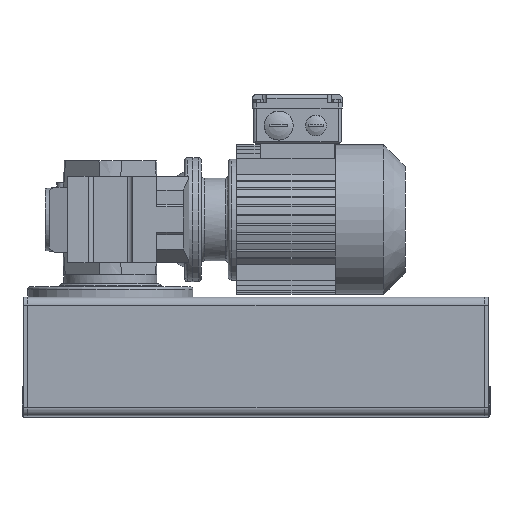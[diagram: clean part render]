
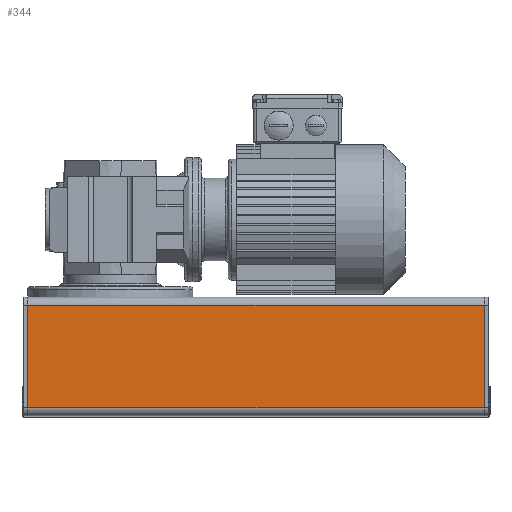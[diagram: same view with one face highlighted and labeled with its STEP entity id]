
A CAD part, front view. The second image highlights one B-rep face of the part: STEP entity #344.
In plain terms, the highlighted planar face has unit normal (0, -1, 0).
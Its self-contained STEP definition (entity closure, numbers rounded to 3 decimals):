
#73=CARTESIAN_POINT('',(-221.0,-190.,54.5));
#74=VERTEX_POINT('',#73);
#75=CARTESIAN_POINT('',(221.,-190.,54.5));
#76=VERTEX_POINT('',#75);
#77=CARTESIAN_POINT('',(-221.,-190.,54.5));
#78=DIRECTION('',(1.0,0.0,0.0));
#79=VECTOR('',#78,442.);
#80=LINE('',#77,#79);
#81=EDGE_CURVE('',#74,#76,#80,.T.);
#167=CARTESIAN_POINT('',(221.,-190.,-44.5));
#168=VERTEX_POINT('',#167);
#176=CARTESIAN_POINT('',(-221.,-190.0,-44.5));
#177=VERTEX_POINT('',#176);
#178=CARTESIAN_POINT('',(-221.,-190.0,-44.5));
#179=DIRECTION('',(1.0,0.0,0.0));
#180=VECTOR('',#179,442.);
#181=LINE('',#178,#180);
#182=EDGE_CURVE('',#177,#168,#181,.T.);
#323=CARTESIAN_POINT('',(221.,-190.,62.5));
#324=DIRECTION('',(0.0,-1.0,0.0));
#325=DIRECTION('',(0.0,0.0,-1.0));
#326=AXIS2_PLACEMENT_3D('',#323,#324,#325);
#327=PLANE('',#326);
#328=ORIENTED_EDGE('',*,*,#182,.T.);
#329=CARTESIAN_POINT('',(221.,-190.,-44.5));
#330=DIRECTION('',(0.0,0.0,1.0));
#331=VECTOR('',#330,99.);
#332=LINE('',#329,#331);
#333=EDGE_CURVE('',#168,#76,#332,.T.);
#334=ORIENTED_EDGE('',*,*,#333,.T.);
#335=ORIENTED_EDGE('',*,*,#81,.F.);
#336=CARTESIAN_POINT('',(-221.0,-190.,54.5));
#337=DIRECTION('',(0.0,0.0,-1.0));
#338=VECTOR('',#337,99.);
#339=LINE('',#336,#338);
#340=EDGE_CURVE('',#74,#177,#339,.T.);
#341=ORIENTED_EDGE('',*,*,#340,.T.);
#342=EDGE_LOOP('',(#328,#334,#335,#341));
#343=FACE_OUTER_BOUND('',#342,.T.);
#344=ADVANCED_FACE('',(#343),#327,.T.);
